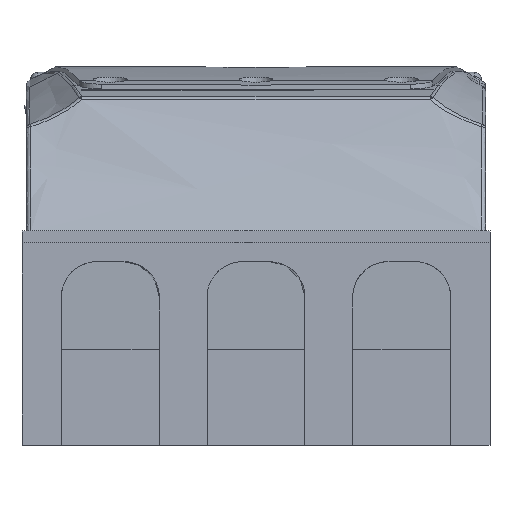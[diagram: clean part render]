
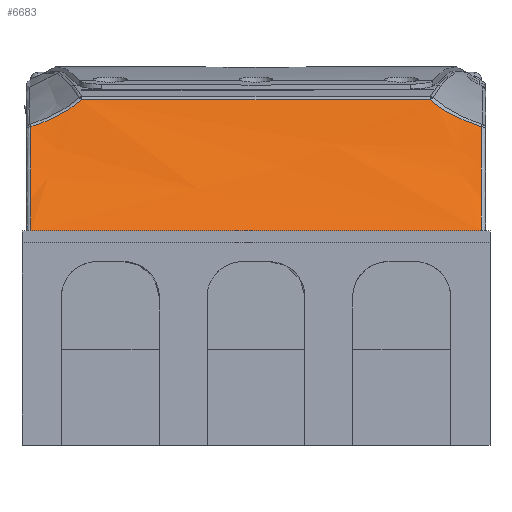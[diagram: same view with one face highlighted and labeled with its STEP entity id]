
A CAD part, left-side view. The second image highlights one B-rep face of the part: STEP entity #6683.
In plain terms, the highlighted face is a extrusion surface.
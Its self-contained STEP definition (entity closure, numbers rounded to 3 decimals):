
#3720=SURFACE_OF_LINEAR_EXTRUSION('',#4716,#28330);
#4716=ELLIPSE('',#30494,35.,12.5);
#6683=ADVANCED_FACE('',(#8909),#3720,.F.);
#8909=FACE_OUTER_BOUND('',#10367,.T.);
#10367=EDGE_LOOP('',(#15219,#15220,#15221,#15222,#15223,#15224));
#11423=B_SPLINE_CURVE_WITH_KNOTS('',3,(#42596,#42597,#42598,#42599,#42600,
#42601),.UNSPECIFIED.,.F.,.F.,(4,2,4),(0.,0.5,1.),.UNSPECIFIED.);
#11784=B_SPLINE_CURVE_WITH_KNOTS('',3,(#52764,#52765,#52766,#52767,#52768,
#52769),.UNSPECIFIED.,.F.,.F.,(4,2,4),(0.,0.5,1.),.UNSPECIFIED.);
#11803=B_SPLINE_CURVE_WITH_KNOTS('',3,(#53240,#53241,#53242,#53243,#53244,
#53245),.UNSPECIFIED.,.F.,.F.,(4,2,4),(0.,0.5,1.),.UNSPECIFIED.);
#11841=B_SPLINE_CURVE_WITH_KNOTS('',3,(#54445,#54446,#54447,#54448,#54449,
#54450),.UNSPECIFIED.,.F.,.F.,(4,2,4),(0.,0.5,1.),.UNSPECIFIED.);
#15219=ORIENTED_EDGE('',*,*,#24345,.T.);
#15220=ORIENTED_EDGE('',*,*,#24290,.T.);
#15221=ORIENTED_EDGE('',*,*,#24285,.T.);
#15222=ORIENTED_EDGE('',*,*,#23346,.T.);
#15223=ORIENTED_EDGE('',*,*,#23092,.F.);
#15224=ORIENTED_EDGE('',*,*,#24452,.T.);
#20516=VERTEX_POINT('',#41743);
#20517=VERTEX_POINT('',#41745);
#20728=VERTEX_POINT('',#42602);
#21339=VERTEX_POINT('',#52756);
#21342=VERTEX_POINT('',#52793);
#21370=VERTEX_POINT('',#53246);
#23092=EDGE_CURVE('',#20516,#20517,#26459,.T.);
#23346=EDGE_CURVE('',#20728,#20517,#11423,.T.);
#24285=EDGE_CURVE('',#21339,#20728,#11784,.T.);
#24290=EDGE_CURVE('',#21342,#21339,#26861,.T.);
#24345=EDGE_CURVE('',#21370,#21342,#11803,.T.);
#24452=EDGE_CURVE('',#20516,#21370,#11841,.T.);
#26459=LINE('',#41744,#27892);
#26861=LINE('',#52796,#28294);
#27892=VECTOR('',#33070,1.);
#28294=VECTOR('',#34874,1.);
#28330=VECTOR('',#35152,1.);
#30494=AXIS2_PLACEMENT_3D('',#54451,#35150,#35151);
#33070=DIRECTION('',(0.,1.,0.));
#34874=DIRECTION('',(0.,1.,0.));
#35150=DIRECTION('',(0.,-1.,0.));
#35151=DIRECTION('',(0.568,0.,0.823));
#35152=DIRECTION('',(0.,-1.,0.));
#41743=CARTESIAN_POINT('',(-175.043,33.,45.002));
#41744=CARTESIAN_POINT('',(-175.043,33.,45.002));
#41745=CARTESIAN_POINT('',(-175.043,135.,45.002));
#42596=CARTESIAN_POINT('',(-159.537,135.,68.653));
#42597=CARTESIAN_POINT('',(-161.463,135.,64.325));
#42598=CARTESIAN_POINT('',(-163.796,135.,60.186));
#42599=CARTESIAN_POINT('',(-168.994,135.,52.289));
#42600=CARTESIAN_POINT('',(-171.874,135.,48.515));
#42601=CARTESIAN_POINT('',(-175.043,135.,45.002));
#42602=CARTESIAN_POINT('',(-159.537,135.,68.653));
#52756=CARTESIAN_POINT('',(-157.184,123.476,74.757));
#52764=CARTESIAN_POINT('',(-157.184,123.476,74.757));
#52765=CARTESIAN_POINT('',(-157.651,125.115,73.302));
#52766=CARTESIAN_POINT('',(-158.088,126.995,72.144));
#52767=CARTESIAN_POINT('',(-158.88,130.869,70.155));
#52768=CARTESIAN_POINT('',(-159.237,132.892,69.327));
#52769=CARTESIAN_POINT('',(-159.537,135.,68.653));
#52793=CARTESIAN_POINT('',(-157.184,44.524,74.757));
#52796=CARTESIAN_POINT('',(-157.184,44.524,74.757));
#53240=CARTESIAN_POINT('',(-159.537,33.,68.653));
#53241=CARTESIAN_POINT('',(-159.237,35.107,69.326));
#53242=CARTESIAN_POINT('',(-158.878,37.144,70.159));
#53243=CARTESIAN_POINT('',(-158.08,41.044,72.166));
#53244=CARTESIAN_POINT('',(-157.649,42.892,73.308));
#53245=CARTESIAN_POINT('',(-157.184,44.524,74.757));
#53246=CARTESIAN_POINT('',(-159.537,33.,68.653));
#54445=CARTESIAN_POINT('',(-175.043,33.,45.002));
#54446=CARTESIAN_POINT('',(-171.879,33.,48.509));
#54447=CARTESIAN_POINT('',(-168.997,33.,52.283));
#54448=CARTESIAN_POINT('',(-163.796,33.,60.186));
#54449=CARTESIAN_POINT('',(-161.463,33.,64.326));
#54450=CARTESIAN_POINT('',(-159.537,33.,68.653));
#54451=CARTESIAN_POINT('',(-177.888,136.,61.55));
